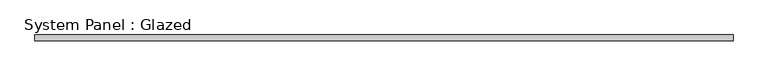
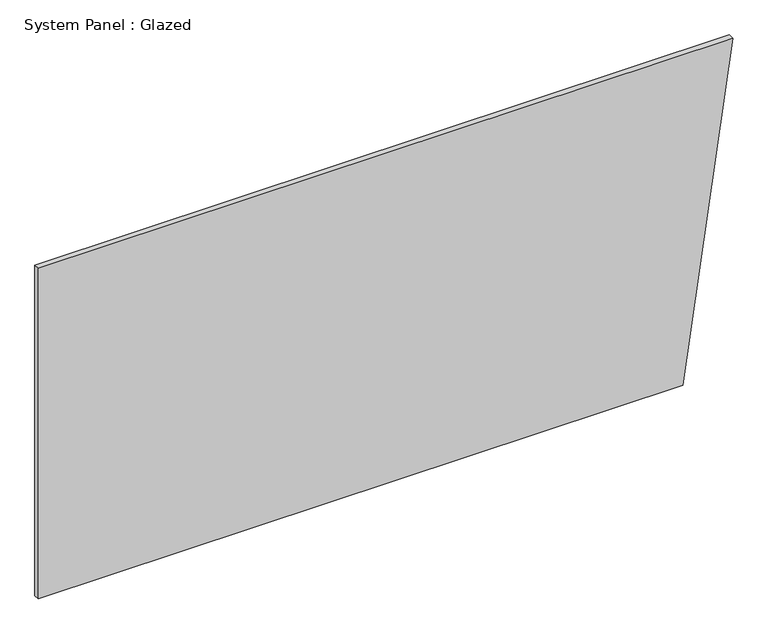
"""IFC4 building model written with IfcOpenShell, lengths in millimetres: plate geometry, System Panel : Glazed."""

import ifcopenshell
import ifcopenshell.guid

model = None  # the IFC model being written
_history = None  # IfcOwnerHistory: only IFC2X3 demands one
_inside = {}  # id of a spatial element -> (the spatial element, [elements in it])
_under = {}  # id of a project, library or spatial element -> (it, [spatial elements below it])
_declared = {}  # id of a project -> (the project, [libraries it declares])
_typed = {}  # id of a type object -> (the type object, [elements of that type])
_made_of = {}  # id of a material, layer set ... -> (it, [elements and type objects made of it])


def new_model(schema):
    """Start an empty IFC model of exactly this schema.

    Asked for "IFC4X3", IfcOpenShell would pick the latest addendum, in which some entities
    have other attributes; the version numbers below select the first issue.
    IFC2X3 requires an IfcOwnerHistory on every rooted entity: one is made here for all.
    """
    global model, _history
    if schema == "IFC4X3":
        model = ifcopenshell.file(schema_version=(4, 3, 0, 0))
    else:
        model = ifcopenshell.file(schema=schema)
    _inside.clear()
    _under.clear()
    _declared.clear()
    _typed.clear()
    _made_of.clear()
    _history = None
    if model.schema == "IFC2X3":
        org = make("IfcOrganization", Name="unknown")
        user = make(
            "IfcPersonAndOrganization",
            ThePerson=make("IfcPerson", FamilyName="unknown"),
            TheOrganization=org,
        )
        app = make(
            "IfcApplication",
            ApplicationDeveloper=org,
            Version="unknown",
            ApplicationFullName="unknown",
            ApplicationIdentifier="unknown",
        )
        _history = make(
            "IfcOwnerHistory",
            OwningUser=user,
            OwningApplication=app,
            ChangeAction="ADDED",
            CreationDate=0,
        )
    return model


def make(cls, **values):
    """One entity of the class cls with the attributes given. An attribute that is None is left unset."""
    return model.create_entity(
        cls, **{name: value for name, value in values.items() if value is not None}
    )


def rooted(cls, **values):
    """An entity with a GlobalId (a new one), such as an element, a storey or a relation."""
    return make(cls, GlobalId=ifcopenshell.guid.new(), OwnerHistory=_history, **values)


def si_unit(unit_type, name, prefix=None):
    """IfcSIUnit, for example si_unit("LENGTHUNIT", "METRE", prefix="MILLI")."""
    return make("IfcSIUnit", UnitType=unit_type, Prefix=prefix, Name=name)


def assignment(units):
    """IfcUnitAssignment: the units of a project."""
    return None if units is None else make("IfcUnitAssignment", Units=units)


def point(xyz):
    """IfcCartesianPoint."""
    return None if xyz is None else make("IfcCartesianPoint", Coordinates=xyz)


def direction(xyz):
    """IfcDirection."""
    return None if xyz is None else make("IfcDirection", DirectionRatios=xyz)


def frame(location, z_axis=None, x_axis=None):
    """IfcAxis2Placement3D, a coordinate frame: its origin and axes. An axis left out is left unset."""
    return make(
        "IfcAxis2Placement3D",
        Location=point(location),
        Axis=direction(z_axis),
        RefDirection=direction(x_axis),
    )


def origin():
    """The frame at (0, 0, 0) with its axes left unset."""
    return frame((0.0, 0.0, 0.0))


def place(relative_to, where):
    """IfcLocalPlacement: puts the frame where relative to a parent placement (None: the world)."""
    return make(
        "IfcLocalPlacement", PlacementRelTo=relative_to, RelativePlacement=where
    )


def context(
    kind, dimensions, precision=None, world=None, true_north=None, identifier=None
):
    """IfcGeometricRepresentationContext, for example the 3D "Model" context."""
    return make(
        "IfcGeometricRepresentationContext",
        ContextIdentifier=identifier,
        ContextType=kind,
        CoordinateSpaceDimension=dimensions,
        Precision=precision,
        WorldCoordinateSystem=world,
        TrueNorth=true_north,
    )


def project(units=None, contexts=None):
    """IfcProject with its units and contexts."""
    return rooted(
        "IfcProject",
        Name="project",
        RepresentationContexts=contexts,
        UnitsInContext=assignment(units),
    )


def spatial(cls, under=None, at=None, **own):
    """A site, building, storey or space (cls), placed at a placement, below another one or the project."""
    s = rooted(cls, ObjectPlacement=at, **own)
    if under is not None:
        _under.setdefault(under.id(), (under, []))[1].append(s)
    return s


def polyline(points):
    """IfcPolyline through the points."""
    return make("IfcPolyline", Points=[point(p) for p in points])


def outline(outer, holes=None, kind="AREA"):
    """IfcArbitraryClosedProfileDef: a profile drawn as a closed curve; with holes, ...WithVoids."""
    if holes is None:
        return make("IfcArbitraryClosedProfileDef", ProfileType=kind, OuterCurve=outer)
    return make(
        "IfcArbitraryProfileDefWithVoids",
        ProfileType=kind,
        OuterCurve=outer,
        InnerCurves=holes,
    )


def extrude(swept, where, along, depth):
    """IfcExtrudedAreaSolid: the profile swept, set in the frame where, extruded along a direction by depth."""
    return make(
        "IfcExtrudedAreaSolid",
        SweptArea=swept,
        Position=where,
        ExtrudedDirection=direction(along),
        Depth=depth,
    )


def shape(context_of_items, identifier, shape_type, items):
    """IfcShapeRepresentation: the items that make up one representation, for example the "Body"."""
    return make(
        "IfcShapeRepresentation",
        ContextOfItems=context_of_items,
        RepresentationIdentifier=identifier,
        RepresentationType=shape_type,
        Items=items,
    )


def source(mapping_origin, context_of_items, identifier, shape_type, items):
    """IfcRepresentationMap: a shape defined once, which mapped items show again and again."""
    return make(
        "IfcRepresentationMap",
        MappingOrigin=mapping_origin,
        MappedRepresentation=shape(context_of_items, identifier, shape_type, items),
    )


def transform(
    local_origin,
    x_axis=None,
    y_axis=None,
    z_axis=None,
    scale=None,
    scale2=None,
    scale3=None,
    uniform=True,
):
    """IfcCartesianTransformationOperator3D, or its non-uniform kind. x_axis, y_axis, z_axis: its Axis1, 2, 3."""
    if uniform:
        return make(
            "IfcCartesianTransformationOperator3D",
            Axis1=direction(x_axis),
            Axis2=direction(y_axis),
            LocalOrigin=point(local_origin),
            Scale=scale,
            Axis3=direction(z_axis),
        )
    return make(
        "IfcCartesianTransformationOperator3DnonUniform",
        Axis1=direction(x_axis),
        Axis2=direction(y_axis),
        LocalOrigin=point(local_origin),
        Scale=scale,
        Axis3=direction(z_axis),
        Scale2=scale2,
        Scale3=scale3,
    )


def mapped(mapping_source, mapping_target):
    """IfcMappedItem: shows the shape of a source again, moved by a transform."""
    return make(
        "IfcMappedItem", MappingSource=mapping_source, MappingTarget=mapping_target
    )


def made_of(thing, what):
    """Note that an element or type object is made of a material, layer set ...; save() writes the relation."""
    if what is not None:
        _made_of.setdefault(what.id(), (what, []))[1].append(thing)
    return thing


def element(
    cls,
    number,
    at=None,
    inside=None,
    cuts=None,
    type_object=None,
    material=None,
    context=None,
    identifier="Body",
    shape_type=None,
    held_by="IfcProductDefinitionShape",
    body=None,
    shapes=None,
    **own,
):
    """One element of the class cls, such as IfcWall. Its Tag is "e" and its number.

    at: its placement. inside: the storey or other place that contains it. cuts: it is an
    opening in that element (IfcRelVoidsElement). A single representation is given by context,
    identifier, shape_type and body (its items); several are given by shapes. held_by: the class
    of the entity that holds the representations. save() writes the other relations.
    """
    e = rooted(cls, Tag="e%d" % number, ObjectPlacement=at, **own)
    if body is not None:
        shapes = [shape(context, identifier, shape_type, body)]
    if shapes is not None:
        e.Representation = make(held_by, Representations=shapes)
    if inside is not None:
        _inside.setdefault(inside.id(), (inside, []))[1].append(e)
    if cuts is not None:
        rooted(
            "IfcRelVoidsElement", RelatingBuildingElement=cuts, RelatedOpeningElement=e
        )
    if type_object is not None:
        _typed.setdefault(type_object.id(), (type_object, []))[1].append(e)
    return made_of(e, material)


def aggregate(whole, parts):
    """IfcRelAggregates: a whole, such as a stair, and the parts it consists of."""
    return rooted("IfcRelAggregates", RelatingObject=whole, RelatedObjects=parts)


def save(model, path):
    """Write the relations noted so far, then the file.

    IfcRelAggregates (storeys below a building ...), IfcRelContainedInSpatialStructure (elements
    in a storey), IfcRelDefinesByType, IfcRelAssociatesMaterial and IfcRelDeclares: one each for
    every whole, place, type object, material and project.
    """
    for whole, parts in _under.values():
        aggregate(whole, parts)
    for where, things in _inside.values():
        rooted(
            "IfcRelContainedInSpatialStructure",
            RelatedElements=things,
            RelatingStructure=where,
        )
    for kind, things in _typed.values():
        rooted("IfcRelDefinesByType", RelatedObjects=things, RelatingType=kind)
    for what, things in _made_of.values():
        rooted("IfcRelAssociatesMaterial", RelatedObjects=things, RelatingMaterial=what)
    for by, libraries in _declared.values():
        rooted("IfcRelDeclares", RelatingContext=by, RelatedDefinitions=libraries)
    model.write(path)


def system_panel_glazed_cd39b145(model_context):
    return source(origin(), model_context, "Body", "SweptSolid", [
        extrude(outline(polyline([(0.0, -1514.6349713), (0.0, 1297.5896162), (1524.0, 1514.6349713), (1524.0, -1514.6349713), (0.0, -1514.6349713)])), frame((0.0, 19.05, 0.0), z_axis=(0.0, 1.0, 0.0), x_axis=(0.0, 0.0, 1.0)), (0.0, 0.0, 1.0), 25.4),
    ])


if __name__ == "__main__":
    model = new_model("IFC4")
    model_context = context("Model", 3, world=origin())
    ifc_project = project(units=[si_unit("LENGTHUNIT", "METRE", prefix="MILLI")], contexts=[model_context])
    site = spatial("IfcSite", under=ifc_project)
    building = spatial("IfcBuilding", under=site)
    placement = place(None, origin())
    system_panel_glazed_shape = system_panel_glazed_cd39b145(model_context)
    element("IfcPlate", 1, ObjectType="System Panel : Glazed", at=placement, inside=building, context=model_context, shape_type="MappedRepresentation", body=[
        mapped(system_panel_glazed_shape, transform((0.0, 0.0, 0.0), x_axis=(1.0, 0.0, 0.0), y_axis=(0.0, 1.0, 0.0), z_axis=(0.0, 0.0, 1.0))),
    ])
    save(model, "model.ifc")
